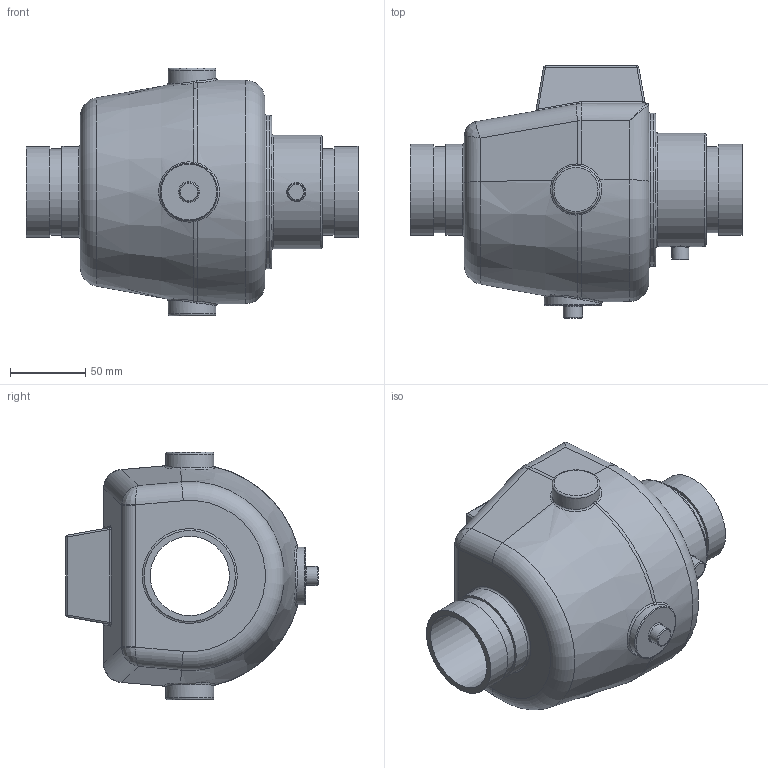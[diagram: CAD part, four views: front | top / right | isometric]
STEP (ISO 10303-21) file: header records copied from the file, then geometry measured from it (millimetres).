
FILE_DESCRIPTION(/* description */ ('VIC FIRELOCK CHECK VALVE SERIES 717-H','CAx-IF Rec.Pracs.---Representation and Presentation of Product Manufacturing Information (PMI)---4.0---2014-10-13'),/* implementation_level */ '2;1');
FILE_NAME(/* name */ 'C:\Users\Vjadhav\AppData\Roaming\Autodesk\ApplicationPlugins\Back Up\Victaulic_FP-FireLock_Valve Check_Series 717H (OGS)\Victaulic_FP-FireLock_Valve Check_Series 717H (OGS)_2 (50).stp',/* time_stamp */ '2020-07-20T15:23:05+06:00',/* author */ ('cps_temp'),/* organization */ ('Victaulic'),/* preprocessor_version */ 'ST-DEVELOPER v17.2',/* originating_system */ 'Autodesk Inventor 2019',/* authorisation */ '');
FILE_SCHEMA (('AP242_MANAGED_MODEL_BASED_3D_ENGINEERING_MIM_LF { 1 0 10303 442 1 1 4 }'));
Length unit declared in the file: inch
Products named in the file (1): 717H-02.0
Bounding box: 219.96 x 167 x 164.08 mm (x, y, z)
Volume: 1802203.3 mm3; surface area: 140956.1 mm2
Topology: 1 solids, 1 shells, 121 faces, 298 edges, 183 vertices
Faces by surface type: cylinder 42, bspline 31, plane 25, torus 15, sphere 6, cone 2
Full cylindrical faces by diameter (mm): 11.43 x1, 12.7 x1, 31.75 x2, 38.1 x1, 52.502 x1, 57.15 x2, 60.325 x3, 75.184 x1, 101.6 x1
Entity records: 4799 total; most frequent: CARTESIAN_POINT 1698, DIRECTION 658, ORIENTED_EDGE 590, EDGE_CURVE 295, AXIS2_PLACEMENT_3D 291, VERTEX_POINT 184, CIRCLE 151, EDGE_LOOP 131
